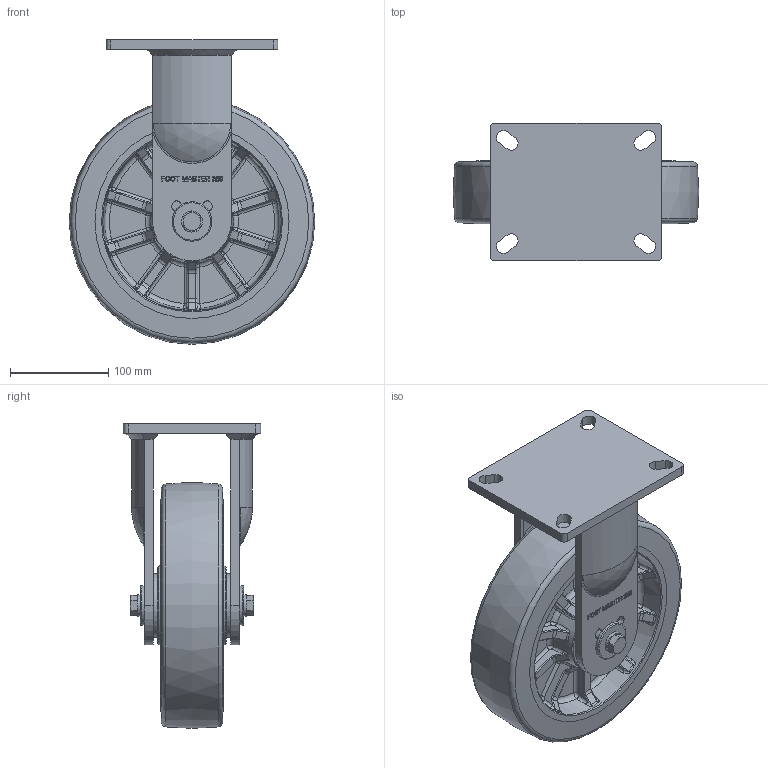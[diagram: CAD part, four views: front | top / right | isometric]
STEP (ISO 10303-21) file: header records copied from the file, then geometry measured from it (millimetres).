
FILE_DESCRIPTION(/* description */ (''),/* implementation_level */ '2;1');
FILE_NAME(/* name */ 'Y:\1.기술연구소\2.연구개발 진행중\133.고하중캐스터 브레이크 타입 변경건_2025.11.03\1.도면\4.홈페이지용 도면\01. 3D\GXT-250 SERIES\GXT-200-STEP\GXT-250-ARF-HUD.stp',/* time_stamp */ '2026-07-21T19:57:32+09:00',/* author */ ('장용하'),/* organization */ (''),/* preprocessor_version */ 'ST-DEVELOPER v18.1',/* originating_system */ 'Autodesk Inventor 2021',/* authorisation */ '');
FILE_SCHEMA (('CONFIG_CONTROL_DESIGN'));
Products named in the file (1): GXT-250-ARF-HUD
Bounding box: 250 x 140 x 310 mm (x, y, z)
Volume: 2772752.5 mm3; surface area: 317100.8 mm2
Topology: 1 solids, 1 shells, 1337 faces, 3406 edges, 2115 vertices
Faces by surface type: bspline 517, plane 406, cylinder 256, torus 130, cone 24, sphere 4
Full cylindrical faces by diameter (mm): 12 x2, 21.5 x2, 40 x2, 65 x2
Entity records: 49803 total; most frequent: CARTESIAN_POINT 20565, ORIENTED_EDGE 6812, DIRECTION 4890, EDGE_CURVE 3406, VERTEX_POINT 2115, AXIS2_PLACEMENT_3D 1765, EDGE_LOOP 1395, LINE 1360
